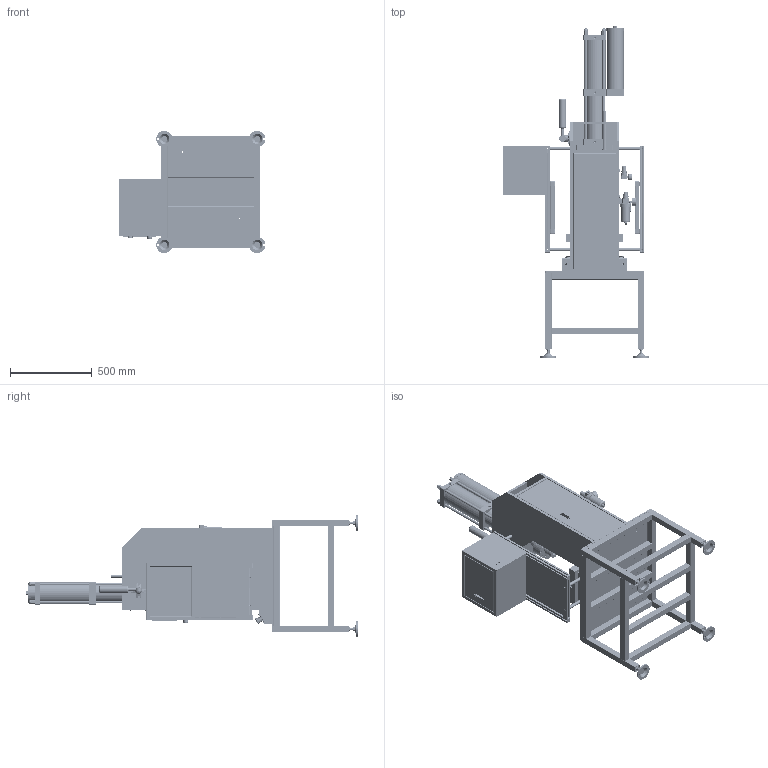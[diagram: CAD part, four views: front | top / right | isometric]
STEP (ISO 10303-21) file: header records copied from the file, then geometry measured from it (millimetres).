
FILE_DESCRIPTION((''),'2;1');
FILE_NAME('PRT0002','2026-06-15T11:00:11',('zxb27'),(''),'CREO PARAMETRIC BY PTC INC, 2022164','CREO PARAMETRIC BY PTC INC, 2022164','');
FILE_SCHEMA(('AUTOMOTIVE_DESIGN { 1 0 10303 214 1 1 1 1 }'));
Products named in the file (1): PRT0002
Bounding box: 900 x 2036.5 x 750 mm (x, y, z)
Surface area: 10935898.2 mm2 (no closed solid volume)
Topology: 0 solids, 139 shells, 9371 faces, 26833 edges, 17459 vertices
Faces by surface type: plane 5700, cylinder 2882, bspline 296, cone 282, torus 154, sphere 39, extrusion 18
Entity records: 478644 total; most frequent: CARTESIAN_POINT 171817, ORIENTED_EDGE 51422, DIRECTION 46588, EDGE_CURVE 26705, VECTOR 17738, LINE 17720, VERTEX_POINT 17459, PRESENTATION_STYLE_ASSIGNMENT 14616
